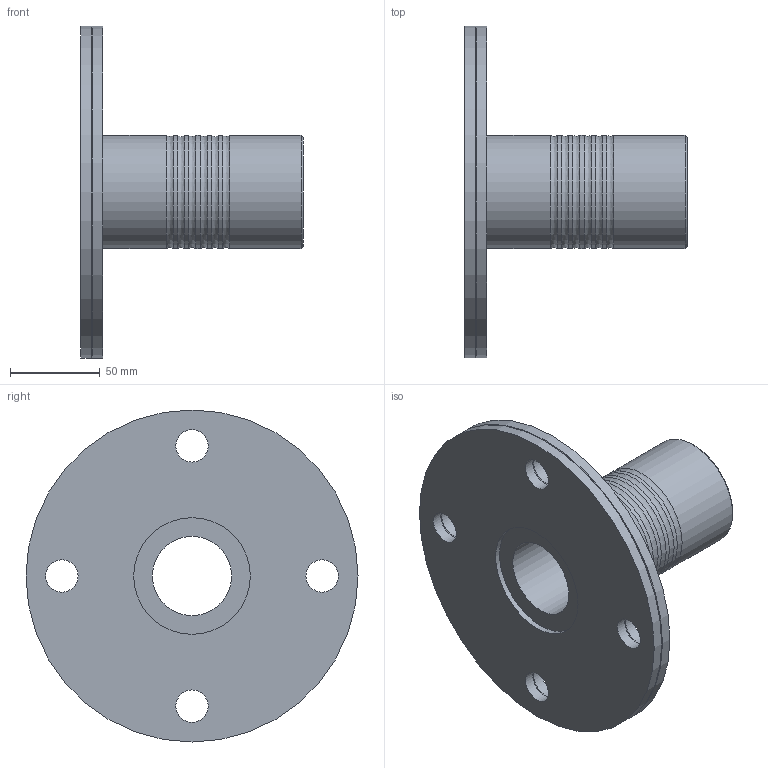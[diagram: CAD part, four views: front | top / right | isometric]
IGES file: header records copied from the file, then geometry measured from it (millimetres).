
Global section: file name: 0723060630250_182306063025_0723060630250A.ipt; native system: Autodesk Inventor 2015; preprocessor: unknown; author: KIM; date: 20170606.172343; units: millimetre
Bounding box: 124 x 185 x 185 mm (x, y, z)
Volume: 455459.5 mm3; surface area: 101860.4 mm2
Topology: 1 solids, 1 shells, 42 faces, 123 edges, 86 vertices
Faces by surface type: revolution 25, cylinder 9, plane 5, cone 3
Full cylindrical faces by diameter (mm): 63 x7, 185 x2
